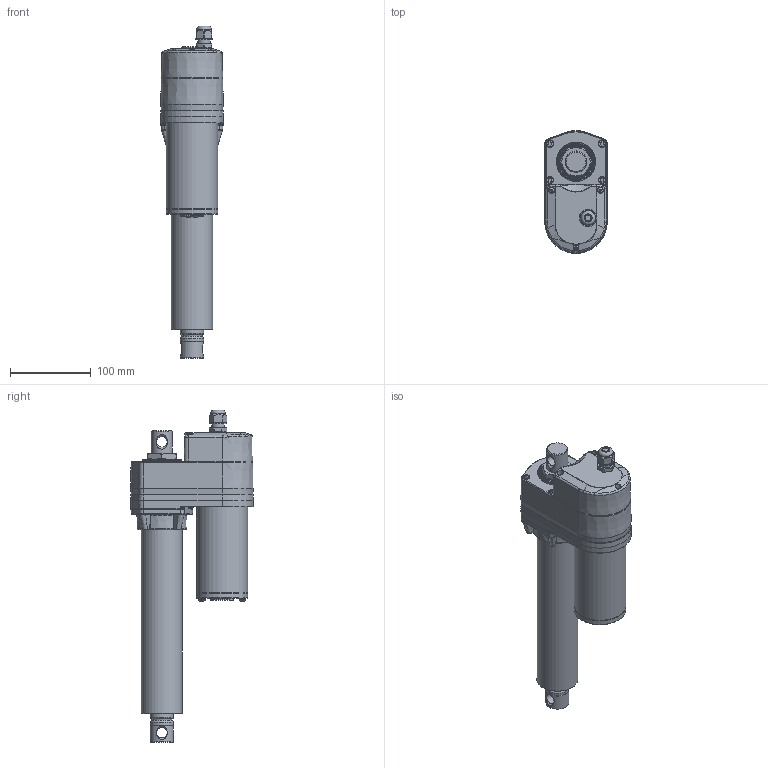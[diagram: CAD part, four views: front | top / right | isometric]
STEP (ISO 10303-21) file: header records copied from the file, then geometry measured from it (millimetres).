
FILE_DESCRIPTION (( 'STEP AP203' ), '1' );
FILE_NAME ('ID1011-B-with LT-102.STEP', '2014-06-09T02:42:46', ( '' ), ( '' ), 'SwSTEP 2.0', 'SolidWorks 2013', '' );
FILE_SCHEMA (( 'CONFIG_CONTROL_DESIGN' ));
Length unit declared in the file: millimetre
Products named in the file (3): ID1011-B-with LT-102; ID1011-B-with LT-102-1; ID1011-B-with LT-102-2
Assembly tree (2 placements, depth 2):
  ID1011-B-with LT-102
    ID1011-B-with LT-102-1
    ID1011-B-with LT-102-2
Bounding box: 77.15 x 151.65 x 410.2 mm (x, y, z)
Volume: 1767042 mm3; surface area: 158870.8 mm2
Topology: 2 solids, 7 shells, 986 faces, 2566 edges, 1625 vertices
Faces by surface type: plane 605, cylinder 180, bspline 110, torus 50, cone 41
Full cylindrical faces by diameter (mm): 7 x1, 7.1 x3, 8.5 x7, 9 x6, 13 x2, 15.7 x1, 16.2 x1, 17.8 x1, 21.6 x1, 26 x1, 28 x2, 28.1 x1, 28.6 x4, 28.62 x1, 48.2 x1, 50.8 x1, 63.2 x1, 63.5 x2
Entity records: 34745 total; most frequent: CARTESIAN_POINT 13124, ORIENTED_EDGE 4938, DIRECTION 3874, EDGE_CURVE 2469, VERTEX_POINT 1606, AXIS2_PLACEMENT_3D 1416, EDGE_LOOP 1099, FACE_OUTER_BOUND 1043
